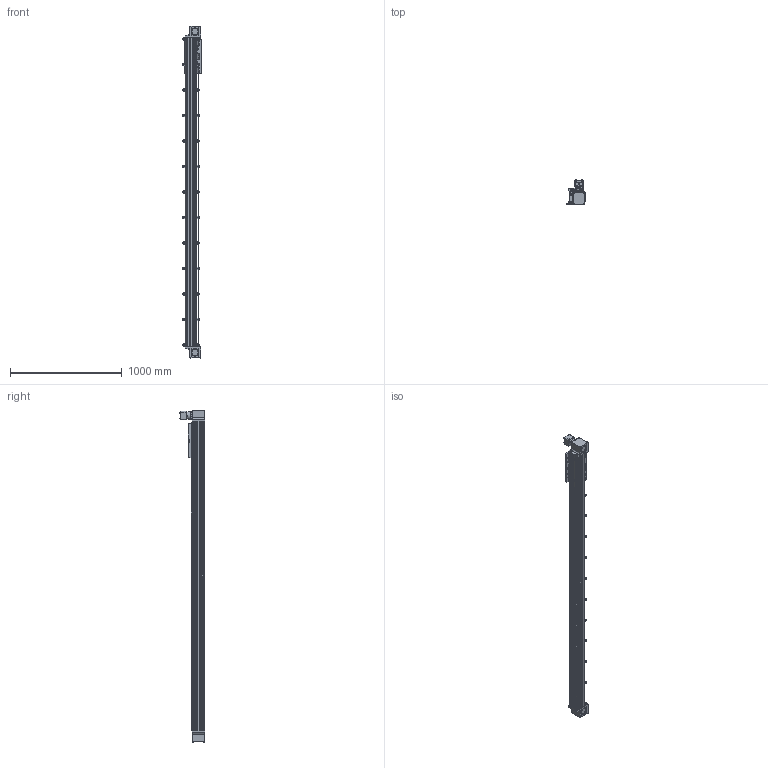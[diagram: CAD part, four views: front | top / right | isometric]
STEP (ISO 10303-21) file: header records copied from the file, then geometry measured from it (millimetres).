
FILE_DESCRIPTION (( 'STEP AP203' ), '1' );
FILE_NAME ('MXB63P_BWS50_SK96.000_MXB-495040-1.step', '2025-08-13T23:50:44', ( '' ), ( '' ), 'SwSTEP 2.0', 'SolidWorks 2024', '' );
FILE_SCHEMA (( 'CONFIG_CONTROL_DESIGN' ));
Length unit declared in the file: inch
Products named in the file (6): tempJoin0_44109204_MXB63P_BWS50_SK96.000_MXB-495040-1; 81639802_MXB63P_BWS50_SK96.000_MXB-495040-1; 85639801_MXB63P_BWS50_SK96.000_MXB-495040-1; Base_MXB63P_BWS50_SK96.000_MXB-495040-1; tempJoin5_45109055_MXB63P_BWS50_SK96.000_MXB-495040-1; MXB63P_BWS50_SK96.000_MXB-495040-1
Assembly tree (30 placements, depth 2):
  MXB63P_BWS50_SK96.000_MXB-495040-1
    85639801_MXB63P_BWS50_SK96.000_MXB-495040-1
    81639802_MXB63P_BWS50_SK96.000_MXB-495040-1  x26
    tempJoin0_44109204_MXB63P_BWS50_SK96.000_MXB-495040-1
    tempJoin5_45109055_MXB63P_BWS50_SK96.000_MXB-495040-1
    Base_MXB63P_BWS50_SK96.000_MXB-495040-1
Bounding box: 168.18 x 226.64 x 2975.9 mm (x, y, z)
Volume: 31765590.4 mm3; surface area: 2750973.8 mm2
Topology: 34 solids, 45 shells, 3818 faces, 9445 edges, 5624 vertices
Faces by surface type: plane 1752, cylinder 1359, sphere 292, torus 248, cone 105, bspline 62
Full cylindrical faces by diameter (mm): 2.794 x8, 3.454 x1, 3.5 x8, 4 x13, 4.2 x17, 4.201 x4, 4.318 x1, 4.572 x2, 4.907 x4, 5 x12, 5.001 x4, 5.29 x12, 5.69 x4, 6 x12, 6.858 x4, 7 x17, 7.937 x2, 7.938 x6, 8 x10, 8.5 x10, 9.25 x4, 9.5 x8, 9.53 x2, 9.563 x2, 10 x12, 10.72 x26, 10.795 x4, 11.1 x8, 11.112 x4, 12.7 x2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
Entity records: 71680 total; most frequent: CARTESIAN_POINT 14262, DIRECTION 11799, ORIENTED_EDGE 11042, EDGE_CURVE 5521, AXIS2_PLACEMENT_3D 4045, VERTEX_POINT 3765, LINE 3709, VECTOR 3709
